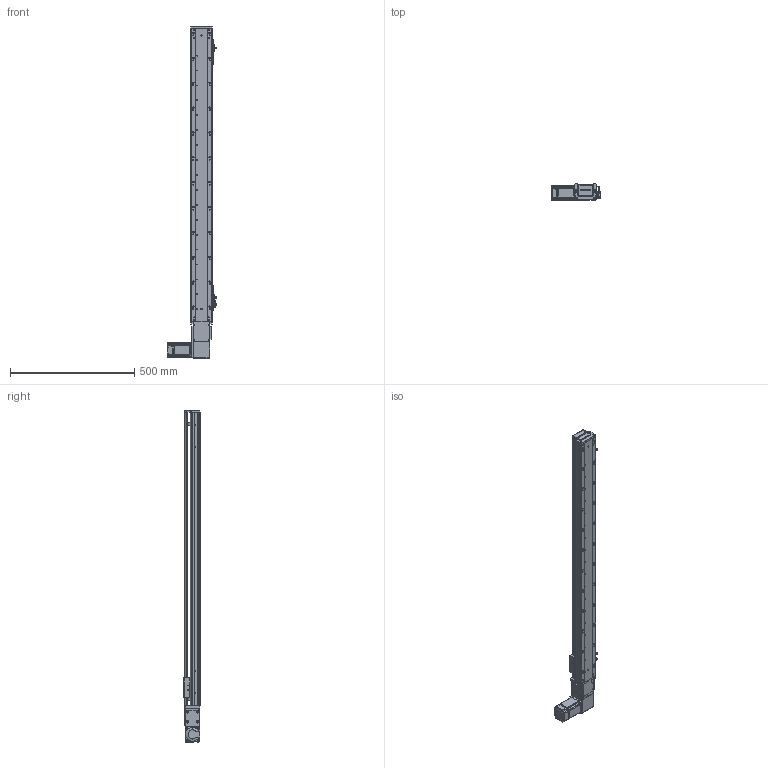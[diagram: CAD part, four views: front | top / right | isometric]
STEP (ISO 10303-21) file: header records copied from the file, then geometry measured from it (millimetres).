
FILE_DESCRIPTION (( 'STEP AP203' ), '1' );
FILE_NAME ('RY80-T-300-LK.SLDASM_1000.step', '2021-03-01T01:58:57', ( '盈信电脑' ), ( '东莞市道滘镇水果街19号' ), 'SwSTEP 2.0', 'SolidWorks 2012', '' );
FILE_SCHEMA (( 'CONFIG_CONTROL_DESIGN' ));
Length unit declared in the file: millimetre
Products named in the file (19): RY80-T-M4蹟翐; RY80-T-300-LK.SLDASM_1000; 侂狟200W萇儂; RY80-T萇儂假蚾啣; RY80-T肮祭謫俋欶; RY80-T粣創揤踡輸; RY80-T翋肮祭謫裔啣; 滅袉蝶18-10; 1; RY80-T肮祭湍揤輸1; RY80俋离覜茼え; RY80-T-翋肮祭謫釱; RY80-T肮祭湍揤輸2; RY80-T-300-LK倰第奻裔啣_1000; RY80-T綴裔啣; 672嫖萇羲壽假蚾釱; 覜茼ん672; RY80-T-300-LK倰第菁釱_1000; RY80-T肮祭謫臏賑輸
Assembly tree (24 placements, depth 3):
  RY80-T-300-LK.SLDASM_1000
    RY80-T-300-LK倰第菁釱_1000
    RY80-T肮祭謫臏賑輸
    RY80-T-300-LK倰第奻裔啣_1000
    RY80-T綴裔啣
    672嫖萇羲壽假蚾釱  x2
    覜茼ん672  x3
    RY80俋离覜茼え
    RY80-T-翋肮祭謫釱
    RY80-T肮祭湍揤輸1
    RY80-T肮祭湍揤輸2
    RY80-T粣創揤踡輸
    RY80-T翋肮祭謫裔啣  x2
    滅袉蝶18-10  x2
    侂狟200W萇儂
      1
    RY80-T肮祭謫俋欶
    RY80-T萇儂假蚾啣
    RY80-T-M4蹟翐  x2
Bounding box: 198.7 x 65 x 1335 mm (x, y, z)
Volume: 2172377.3 mm3; surface area: 910968.1 mm2
Topology: 23 solids, 23 shells, 2639 faces, 7335 edges, 4769 vertices
Faces by surface type: plane 1359, cylinder 1071, cone 153, bspline 56
Entity records: 85077 total; most frequent: CARTESIAN_POINT 21959, ORIENTED_EDGE 13114, DIRECTION 12076, EDGE_CURVE 6557, VERTEX_POINT 4310, AXIS2_PLACEMENT_3D 4107, LINE 3862, VECTOR 3862
